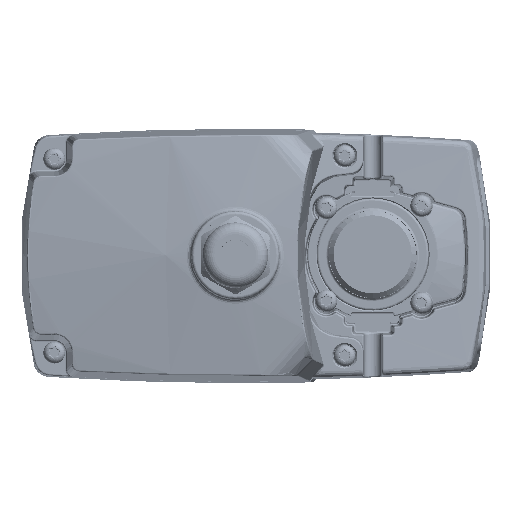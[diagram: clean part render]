
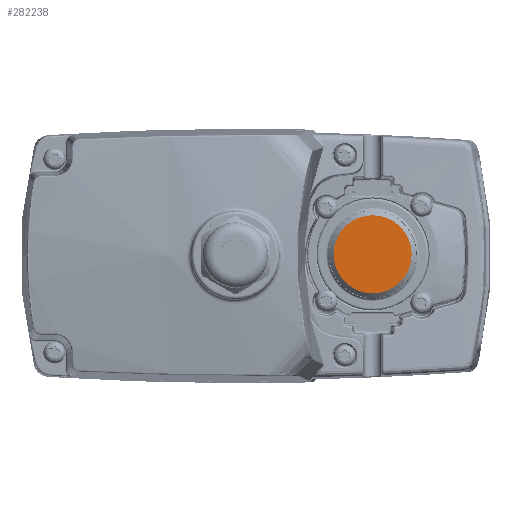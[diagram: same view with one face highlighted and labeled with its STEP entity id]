
A CAD part, top view. The second image highlights one B-rep face of the part: STEP entity #282238.
In plain terms, the highlighted planar face has unit normal (0, 0, 1).
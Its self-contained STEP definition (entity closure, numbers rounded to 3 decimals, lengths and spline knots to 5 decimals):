
#1421 = VERTEX_POINT ( 'NONE', #71666 ) ;
#16435 = FACE_OUTER_BOUND ( 'NONE', #218956, .T. ) ;
#22567 = DIRECTION ( 'NONE',  ( 0., -1., 0. ) ) ;
#23624 = CARTESIAN_POINT ( 'NONE',  ( 2.91339, 0., 12.88976 ) ) ;
#40181 = VERTEX_POINT ( 'NONE', #139452 ) ;
#45323 = ORIENTED_EDGE ( 'NONE', *, *, #280753, .T. ) ;
#63860 = AXIS2_PLACEMENT_3D ( 'NONE', #241512, #122547, #264839 ) ;
#70745 = AXIS2_PLACEMENT_3D ( 'NONE', #279499, #182869, #88443 ) ;
#71666 = CARTESIAN_POINT ( 'NONE',  ( 2.91339, 0.49213, 12.88976 ) ) ;
#78793 = CIRCLE ( 'NONE', #63860, 0.49213 ) ;
#88443 = DIRECTION ( 'NONE',  ( 0., -1., 0. ) ) ;
#122547 = DIRECTION ( 'NONE',  ( 0., 0., 1. ) ) ;
#138651 = CIRCLE ( 'NONE', #182259, 0.49213 ) ;
#139452 = CARTESIAN_POINT ( 'NONE',  ( 2.91339, -0.49213, 12.88976 ) ) ;
#155379 = PLANE ( 'NONE',  #70745 ) ;
#182259 = AXIS2_PLACEMENT_3D ( 'NONE', #23624, #195583, #22567 ) ;
#182869 = DIRECTION ( 'NONE',  ( 0., 0., -1. ) ) ;
#195583 = DIRECTION ( 'NONE',  ( 0., 0., 1. ) ) ;
#195760 = ORIENTED_EDGE ( 'NONE', *, *, #288511, .T. ) ;
#218956 = EDGE_LOOP ( 'NONE', ( #195760, #45323 ) ) ;
#241512 = CARTESIAN_POINT ( 'NONE',  ( 2.91339, 0., 12.88976 ) ) ;
#264839 = DIRECTION ( 'NONE',  ( 0., -1., 0. ) ) ;
#279499 = CARTESIAN_POINT ( 'NONE',  ( 2.91339, 0., 12.88976 ) ) ;
#280753 = EDGE_CURVE ( 'NONE', #1421, #40181, #138651, .T. ) ;
#282238 = ADVANCED_FACE ( 'NONE', ( #16435 ), #155379, .F. ) ;
#288511 = EDGE_CURVE ( 'NONE', #40181, #1421, #78793, .T. ) ;
